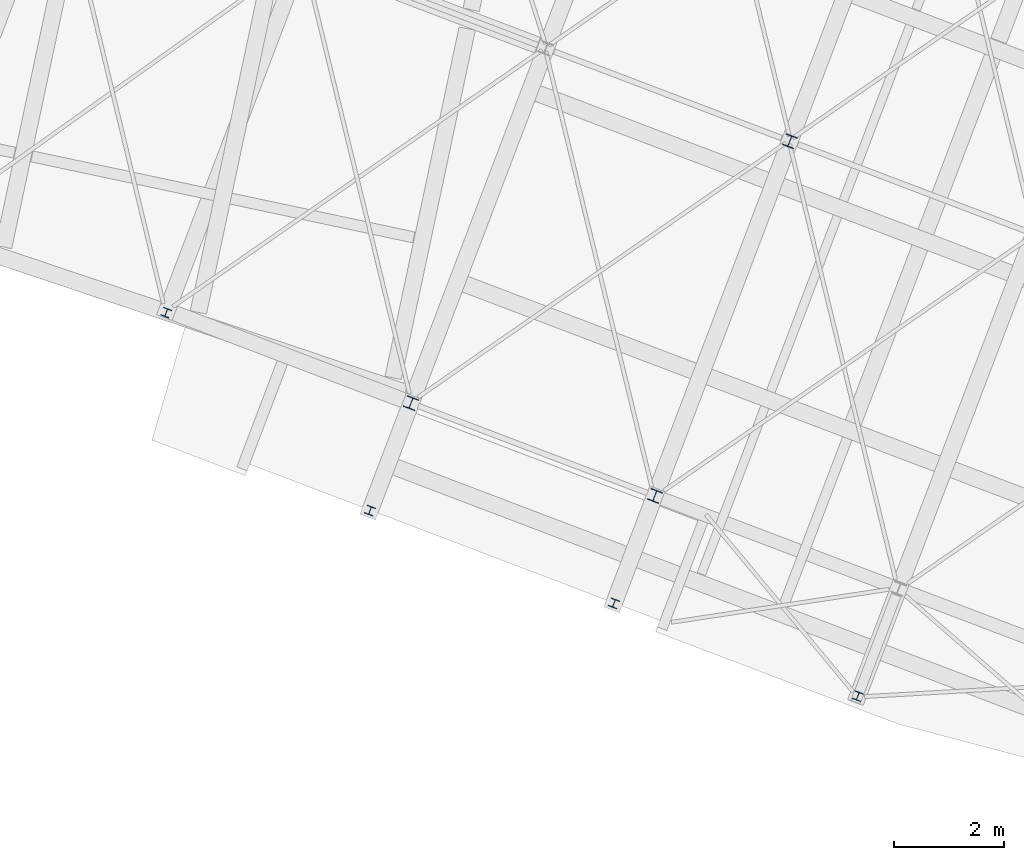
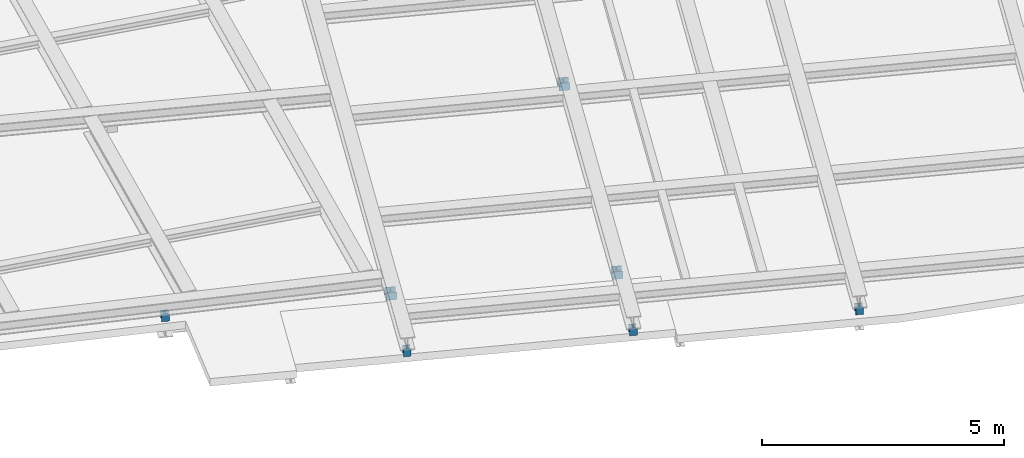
# One storey, part 2 of 21: 7 columns.
"""IFC2X3 building model written with IfcOpenShell, lengths in millimetres."""

from ifc_helpers import new_model, entity, si_unit, converted_unit, derived_unit, direction, frame, frame_2d, origin, origin_2d_with_axis, place, context, subcontext, project, spatial, i_section, extrude, source, transform, mapped, material, type_object, type_shapes, element, save


model = new_model("IFC2X3")

# Units and contexts
model_context = context("Model", 3, precision=0.01, world=origin(), true_north=direction((6.123233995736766e-17, 1.0)))
body_context = subcontext(model_context, "Body", "Model", "MODEL_VIEW")
ifc_project = project(units=[si_unit("LENGTHUNIT", "METRE", prefix="MILLI"), converted_unit("PLANEANGLEUNIT", "DEGREE", entity("IfcPlaneAngleMeasure", 0.017453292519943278), si_unit("PLANEANGLEUNIT", "RADIAN"), dimensions=[0, 0, 0, 0, 0, 0, 0]), si_unit("AREAUNIT", "SQUARE_METRE"), derived_unit("THERMALTRANSMITTANCEUNIT", [(si_unit("MASSUNIT", "GRAM", prefix="KILO"), 1), (si_unit("THERMODYNAMICTEMPERATUREUNIT", "KELVIN"), -1), (si_unit("TIMEUNIT", "SECOND"), -3)])], contexts=[model_context])

# Site, building, storey
site_placement = place(None, frame((-72937.88054949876, 11621.45624098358, 0.0), z_axis=(0.0, 0.0, 1.0), x_axis=(0.9346418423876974, -0.35559053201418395, 0.0)))
site = spatial("IfcSite", under=ifc_project, at=site_placement, Name="Default", CompositionType="ELEMENT")
building_placement = place(site_placement, origin())
building = spatial("IfcBuilding", under=site, at=building_placement, CompositionType="ELEMENT")
storey_placement = place(building_placement, frame((0.0, 0.0, 4250.0)))
storey = spatial("IfcBuildingStorey", under=building, at=storey_placement, Name="01 eerste verdieping", CompositionType="ELEMENT", Elevation=4250.0)

# Columns
ifc_material = material(Name="metaal_staal_generiek")
column_type_1 = type_object("IfcColumnType", Name="DIE16", PredefinedType="COLUMN", material=ifc_material)
shared_shape_1 = source(origin(), body_context, "Body", "SweptSolid", [
    extrude(i_section(OverallWidth=160.0, OverallDepth=152.0, WebThickness=5.999999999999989, FlangeThickness=9.000000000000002, FilletRadius=15.0, at=frame_2d((0.0, 7.105427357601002e-15), x_axis=(1.0, 0.0))), frame((0.0, 0.0, 4190.0), z_axis=(0.0, 0.0, 1.0), x_axis=(-1.0, 0.0, 0.0)), (0.0, 0.0, 1.0), 190.0000000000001),
])
type_shapes(column_type_1, [shared_shape_1])
for number, where in (
    (1, (48110.0, 12915.614638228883, -4250.0)),
    (2, (43380.0, 12915.614638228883, -4250.0)),
    (3, (38650.0, 12915.614638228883, -4250.0)),
    (4, (33920.0, 14955.785956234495, -4250.0)),
):
    element("IfcColumn", number, at=place(storey_placement, frame(where)), inside=storey, type_object=column_type_1, material=ifc_material, Name="28.11_SCO_KolomHEA:DIE16", ObjectType="28.11_SCO_KolomHEA:DIE16", context=body_context, shape_type="MappedRepresentation", body=[
        mapped(shared_shape_1, transform((0.0, 0.0, 0.0), scale=1.0)),
    ])
column_type_2 = type_object("IfcColumnType", Name="DIE22", PredefinedType="COLUMN", material=ifc_material)
shared_shape_2 = source(origin(), body_context, "Body", "SweptSolid", [
    extrude(i_section(OverallWidth=219.99999999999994, OverallDepth=209.99999999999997, WebThickness=6.999999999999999, FlangeThickness=11.000000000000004, FilletRadius=18.0, at=origin_2d_with_axis()), frame((0.0, 0.0, 4190.0), z_axis=(0.0, 0.0, 1.0), x_axis=(-1.0, 0.0, 0.0)), (0.0, 0.0, 1.0), 189.99999999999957),
])
type_shapes(column_type_2, [shared_shape_2])
for number, where in (
    (5, (43380.0, 15000.0, -4250.0)),
    (6, (38650.0, 15000.0, -4250.0)),
    (7, (43380.0, 21880.0, -4250.0)),
):
    element("IfcColumn", number, at=place(storey_placement, frame(where)), inside=storey, type_object=column_type_2, material=ifc_material, Name="28.11_SCO_KolomHEA:DIE22", ObjectType="28.11_SCO_KolomHEA:DIE22", context=body_context, shape_type="MappedRepresentation", body=[
        mapped(shared_shape_2, transform((0.0, 0.0, 0.0), scale=1.0)),
    ])

save(model, "model.ifc")
